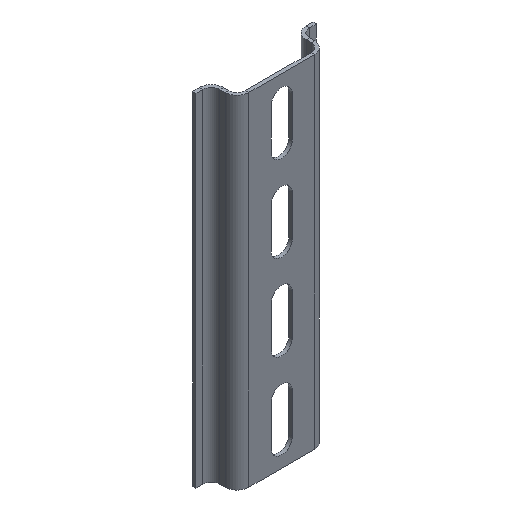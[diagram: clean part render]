
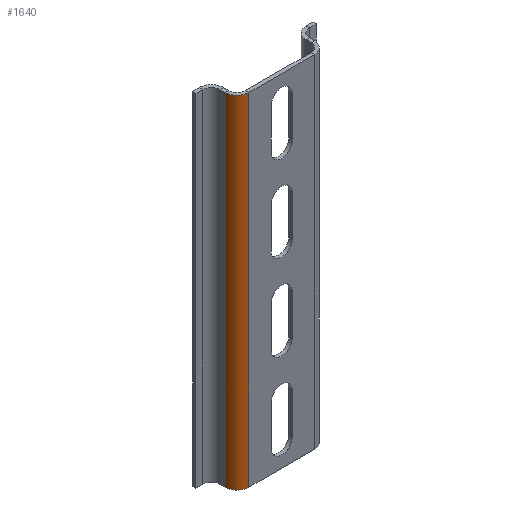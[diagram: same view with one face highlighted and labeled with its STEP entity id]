
A CAD part, isometric view. The second image highlights one B-rep face of the part: STEP entity #1640.
In plain terms, the highlighted cylindrical face has radius 3.5 mm (diameter 7 mm), a partial arc.
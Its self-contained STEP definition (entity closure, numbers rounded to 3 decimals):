
#1 = ORIENTED_EDGE ( 'NONE', *, *, #1537, .T. ) ;
#16 = CARTESIAN_POINT ( 'NONE',  ( -9.6, 2.5, 100. ) ) ;
#32 = CARTESIAN_POINT ( 'NONE',  ( -13.1, 2.5, 100. ) ) ;
#34 = DIRECTION ( 'NONE',  ( 0., 0., -1. ) ) ;
#58 = AXIS2_PLACEMENT_3D ( 'NONE', #16, #1066, #1583 ) ;
#65 = CARTESIAN_POINT ( 'NONE',  ( -13.1, 2.5, 100. ) ) ;
#71 = VECTOR ( 'NONE', #34, 1000. ) ;
#143 = EDGE_CURVE ( 'NONE', #501, #1272, #1060, .T. ) ;
#168 = CARTESIAN_POINT ( 'NONE',  ( -9.6, -1., 100. ) ) ;
#216 = VECTOR ( 'NONE', #1599, 1000. ) ;
#258 = EDGE_CURVE ( 'NONE', #501, #1508, #1001, .T. ) ;
#296 = ORIENTED_EDGE ( 'NONE', *, *, #258, .F. ) ;
#303 = CARTESIAN_POINT ( 'NONE',  ( -9.6, 2.5, 100. ) ) ;
#371 = DIRECTION ( 'NONE',  ( 0., 0., -1. ) ) ;
#448 = DIRECTION ( 'NONE',  ( 0., 0., -1. ) ) ;
#499 = DIRECTION ( 'NONE',  ( 1., 0., 0. ) ) ;
#501 = VERTEX_POINT ( 'NONE', #884 ) ;
#527 = CIRCLE ( 'NONE', #1528, 3.5 ) ;
#643 = CARTESIAN_POINT ( 'NONE',  ( -13.1, 2.5, 0. ) ) ;
#649 = AXIS2_PLACEMENT_3D ( 'NONE', #303, #448, #1232 ) ;
#656 = VERTEX_POINT ( 'NONE', #643 ) ;
#850 = EDGE_CURVE ( 'NONE', #1508, #656, #527, .T. ) ;
#884 = CARTESIAN_POINT ( 'NONE',  ( -9.6, -1., 100. ) ) ;
#1001 = LINE ( 'NONE', #168, #71 ) ;
#1045 = CARTESIAN_POINT ( 'NONE',  ( -9.6, -1., 0. ) ) ;
#1060 = CIRCLE ( 'NONE', #58, 3.5 ) ;
#1066 = DIRECTION ( 'NONE',  ( 0., 0., -1. ) ) ;
#1133 = EDGE_LOOP ( 'NONE', ( #1442, #296, #1415, #1 ) ) ;
#1232 = DIRECTION ( 'NONE',  ( -1., 0., 0. ) ) ;
#1272 = VERTEX_POINT ( 'NONE', #65 ) ;
#1284 = CARTESIAN_POINT ( 'NONE',  ( -9.6, 2.5, 0. ) ) ;
#1415 = ORIENTED_EDGE ( 'NONE', *, *, #143, .T. ) ;
#1442 = ORIENTED_EDGE ( 'NONE', *, *, #850, .F. ) ;
#1484 = FACE_OUTER_BOUND ( 'NONE', #1133, .T. ) ;
#1508 = VERTEX_POINT ( 'NONE', #1045 ) ;
#1528 = AXIS2_PLACEMENT_3D ( 'NONE', #1284, #371, #499 ) ;
#1537 = EDGE_CURVE ( 'NONE', #1272, #656, #1661, .T. ) ;
#1579 = CYLINDRICAL_SURFACE ( 'NONE', #649, 3.5 ) ;
#1583 = DIRECTION ( 'NONE',  ( 1., 0., 0. ) ) ;
#1599 = DIRECTION ( 'NONE',  ( 0., 0., -1. ) ) ;
#1640 = ADVANCED_FACE ( 'NONE', ( #1484 ), #1579, .T. ) ;
#1661 = LINE ( 'NONE', #32, #216 ) ;
